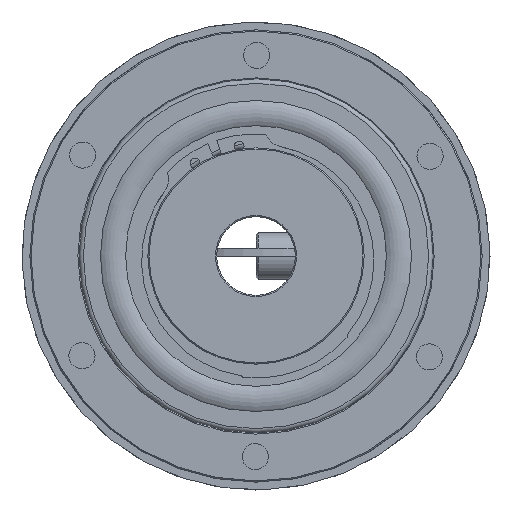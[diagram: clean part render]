
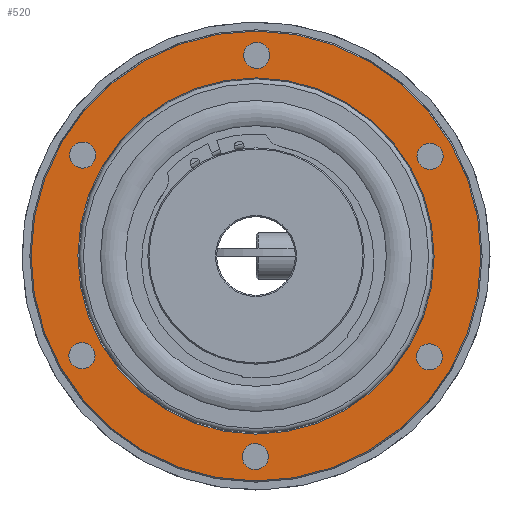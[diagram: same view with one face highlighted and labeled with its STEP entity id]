
A CAD part, left-side view. The second image highlights one B-rep face of the part: STEP entity #520.
In plain terms, the highlighted planar face has unit normal (-1, 0, 0).
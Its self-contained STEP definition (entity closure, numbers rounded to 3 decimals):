
#520 = ADVANCED_FACE( '', ( #919, #920, #921, #922, #923, #924, #925, #926 ), #927, .F. );
#919 = FACE_OUTER_BOUND( '', #1288, .T. );
#920 = FACE_BOUND( '', #1289, .T. );
#921 = FACE_BOUND( '', #1290, .T. );
#922 = FACE_BOUND( '', #1291, .T. );
#923 = FACE_BOUND( '', #1292, .T. );
#924 = FACE_BOUND( '', #1293, .T. );
#925 = FACE_BOUND( '', #1294, .T. );
#926 = FACE_BOUND( '', #1295, .T. );
#927 = PLANE( '', #1296 );
#1288 = EDGE_LOOP( '', ( #1970 ) );
#1289 = EDGE_LOOP( '', ( #1971 ) );
#1290 = EDGE_LOOP( '', ( #1972 ) );
#1291 = EDGE_LOOP( '', ( #1973 ) );
#1292 = EDGE_LOOP( '', ( #1974 ) );
#1293 = EDGE_LOOP( '', ( #1975 ) );
#1294 = EDGE_LOOP( '', ( #1976 ) );
#1295 = EDGE_LOOP( '', ( #1977 ) );
#1296 = AXIS2_PLACEMENT_3D( '', #1978, #1979, #1980 );
#1970 = ORIENTED_EDGE( '', *, *, #2263, .T. );
#1971 = ORIENTED_EDGE( '', *, *, #2264, .T. );
#1972 = ORIENTED_EDGE( '', *, *, #2254, .T. );
#1973 = ORIENTED_EDGE( '', *, *, #2256, .T. );
#1974 = ORIENTED_EDGE( '', *, *, #2260, .T. );
#1975 = ORIENTED_EDGE( '', *, *, #2265, .T. );
#1976 = ORIENTED_EDGE( '', *, *, #2266, .T. );
#1977 = ORIENTED_EDGE( '', *, *, #2267, .T. );
#1978 = CARTESIAN_POINT( '', ( -21.8, 57.5, 0. ) );
#1979 = DIRECTION( '', ( 1., 0., 0. ) );
#1980 = DIRECTION( '', ( 0., 1., 0. ) );
#2254 = EDGE_CURVE( '', #2559, #2559, #2560, .T. );
#2256 = EDGE_CURVE( '', #2563, #2563, #2564, .T. );
#2260 = EDGE_CURVE( '', #2571, #2571, #2572, .T. );
#2263 = EDGE_CURVE( '', #2577, #2577, #2578, .T. );
#2264 = EDGE_CURVE( '', #2579, #2579, #2580, .T. );
#2265 = EDGE_CURVE( '', #2581, #2581, #2582, .T. );
#2266 = EDGE_CURVE( '', #2583, #2583, #2584, .T. );
#2267 = EDGE_CURVE( '', #2585, #2585, #2586, .T. );
#2559 = VERTEX_POINT( '', #3407 );
#2560 = CIRCLE( '', #3408, 3.324 );
#2563 = VERTEX_POINT( '', #3411 );
#2564 = CIRCLE( '', #3412, 3.324 );
#2571 = VERTEX_POINT( '', #3419 );
#2572 = CIRCLE( '', #3420, 3.324 );
#2577 = VERTEX_POINT( '', #3425 );
#2578 = CIRCLE( '', #3426, 57.2 );
#2579 = VERTEX_POINT( '', #3427 );
#2580 = CIRCLE( '', #3428, 45.3 );
#2581 = VERTEX_POINT( '', #3429 );
#2582 = CIRCLE( '', #3430, 3.324 );
#2583 = VERTEX_POINT( '', #3431 );
#2584 = CIRCLE( '', #3432, 3.324 );
#2585 = VERTEX_POINT( '', #3433 );
#2586 = CIRCLE( '', #3434, 3.324 );
#3407 = CARTESIAN_POINT( '', ( -21.8, 47.046, 27.162 ) );
#3408 = AXIS2_PLACEMENT_3D( '', #3760, #3761, #3762 );
#3411 = CARTESIAN_POINT( '', ( -21.8, 47.046, -27.162 ) );
#3412 = AXIS2_PLACEMENT_3D( '', #3766, #3767, #3768 );
#3419 = CARTESIAN_POINT( '', ( -21.8, 0., -54.324 ) );
#3420 = AXIS2_PLACEMENT_3D( '', #3778, #3779, #3780 );
#3425 = CARTESIAN_POINT( '', ( -21.8, 0., -57.2 ) );
#3426 = AXIS2_PLACEMENT_3D( '', #3787, #3788, #3789 );
#3427 = CARTESIAN_POINT( '', ( -21.8, 0., -45.3 ) );
#3428 = AXIS2_PLACEMENT_3D( '', #3790, #3791, #3792 );
#3429 = CARTESIAN_POINT( '', ( -21.8, -47.046, -27.162 ) );
#3430 = AXIS2_PLACEMENT_3D( '', #3793, #3794, #3795 );
#3431 = CARTESIAN_POINT( '', ( -21.8, -47.046, 27.162 ) );
#3432 = AXIS2_PLACEMENT_3D( '', #3796, #3797, #3798 );
#3433 = CARTESIAN_POINT( '', ( -21.8, 0., 54.324 ) );
#3434 = AXIS2_PLACEMENT_3D( '', #3799, #3800, #3801 );
#3760 = CARTESIAN_POINT( '', ( -21.8, 44.167, 25.5 ) );
#3761 = DIRECTION( '', ( 1., 0., 0. ) );
#3762 = DIRECTION( '', ( 0., 0.866, 0.5 ) );
#3766 = CARTESIAN_POINT( '', ( -21.8, 44.167, -25.5 ) );
#3767 = DIRECTION( '', ( 1., 0., 0. ) );
#3768 = DIRECTION( '', ( 0., 0.866, -0.5 ) );
#3778 = CARTESIAN_POINT( '', ( -21.8, 0., -51. ) );
#3779 = DIRECTION( '', ( 1., 0., 0. ) );
#3780 = DIRECTION( '', ( 0., 0., -1. ) );
#3787 = CARTESIAN_POINT( '', ( -21.8, 0., 0. ) );
#3788 = DIRECTION( '', ( -1., 0., 0. ) );
#3789 = DIRECTION( '', ( 0., 0., -1. ) );
#3790 = CARTESIAN_POINT( '', ( -21.8, 0., 0. ) );
#3791 = DIRECTION( '', ( 1., 0., 0. ) );
#3792 = DIRECTION( '', ( 0., 0., -1. ) );
#3793 = CARTESIAN_POINT( '', ( -21.8, -44.167, -25.5 ) );
#3794 = DIRECTION( '', ( 1., 0., 0. ) );
#3795 = DIRECTION( '', ( 0., -0.866, -0.5 ) );
#3796 = CARTESIAN_POINT( '', ( -21.8, -44.167, 25.5 ) );
#3797 = DIRECTION( '', ( 1., 0., 0. ) );
#3798 = DIRECTION( '', ( 0., -0.866, 0.5 ) );
#3799 = CARTESIAN_POINT( '', ( -21.8, 0., 51. ) );
#3800 = DIRECTION( '', ( 1., 0., 0. ) );
#3801 = DIRECTION( '', ( 0., 0., 1. ) );
